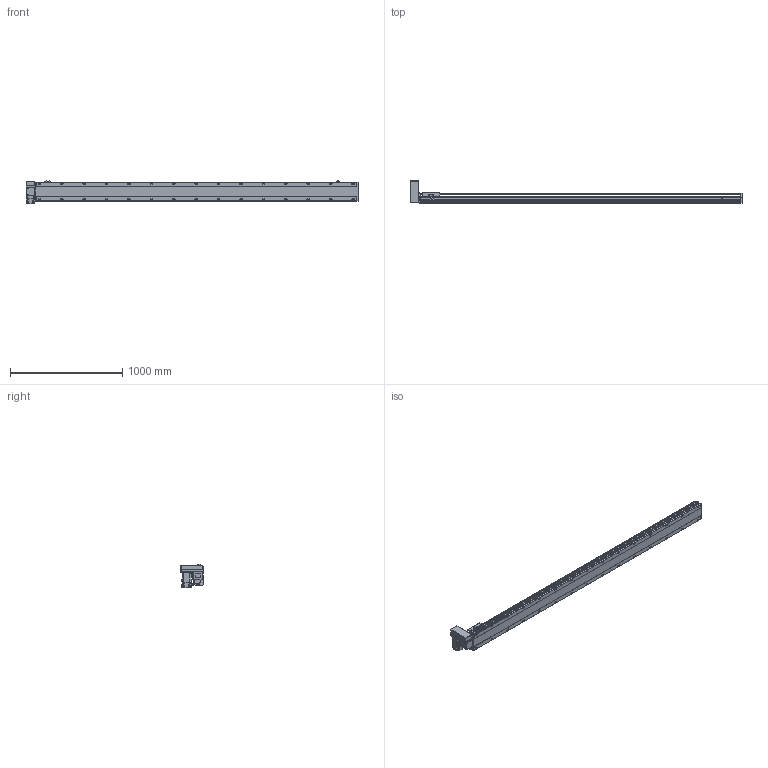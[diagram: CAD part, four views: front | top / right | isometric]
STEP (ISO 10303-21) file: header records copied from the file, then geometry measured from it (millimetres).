
FILE_DESCRIPTION( ( 'STEP AP214' ), '1' );
FILE_NAME( 'x:/temp/worker_5/temp/exporttempdir_3988_144_IaNYq/format_0/PBS170-P40-S2600-RU-T75-C1-N(0).stp', '2022-06-08T06:00:52', ( 'License CC BY-ND 4.0' ), ( 'CADENAS' ), ' ', 'PARTsolutions', ' ' );
FILE_SCHEMA( ( 'AUTOMOTIVE_DESIGN { 1 0 10303 214 1 1 1 1 }' ) );
Length unit declared in the file: millimetre
Products named in the file (7): PBS170-P40-S2600-RU-T75-C1-N(0); _PBS170-S2600()_body; _PBS170T-RU_motors; _T75-p1; _PBS170_sliser; _PBS170_plant; _PBS170_sensor
Assembly tree (8 placements, depth 2):
  PBS170-P40-S2600-RU-T75-C1-N(0)
    _PBS170-S2600()_body
    _PBS170T-RU_motors
    _T75-p1
    _PBS170_sliser
    _PBS170_plant
    _PBS170_sensor  x3
Bounding box: 2963 x 206 x 205.3 mm (x, y, z)
Volume: 22393145.3 mm3; surface area: 2814760.4 mm2
Topology: 8 solids, 8 shells, 1194 faces, 3155 edges, 2056 vertices
Faces by surface type: plane 729, cylinder 395, cone 60, sphere 8, torus 2
Full cylindrical faces by diameter (mm): 3.242 x4, 4 x2, 4.4 x4, 4.5 x6, 4.917 x4, 6 x9, 6.647 x38, 7 x2, 7.5 x4, 8 x8, 8.5 x30, 10 x4, 10.5 x30, 11 x2, 30 x2, 40 x1, 70 x1
Entity records: 44234 total; most frequent: CARTESIAN_POINT 7397, DIRECTION 5790, ORIENTED_EDGE 5448, EDGE_CURVE 2724, AXIS2_PLACEMENT_3D 2047, VERTEX_POINT 1898, LINE 1696, VECTOR 1696
